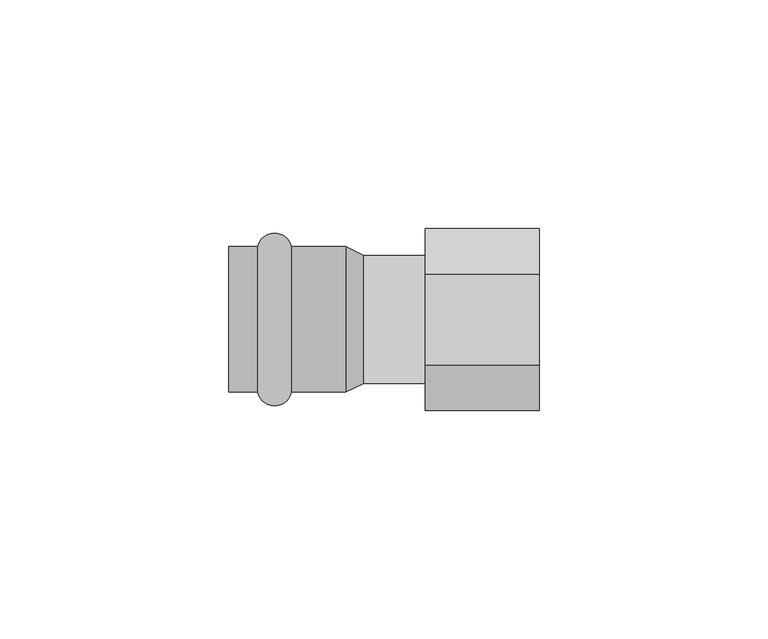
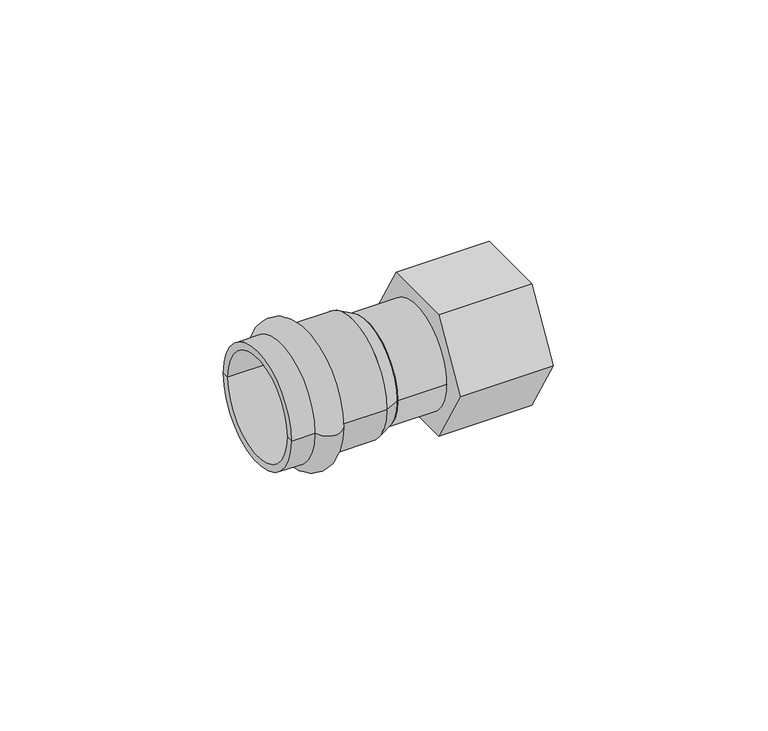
"""IFC4 building model written with IfcOpenShell, lengths in millimetres: pipe fitting geometry, VALTEC_VTi.902.I_Соединитель прямой с переходом на внутреннюю резьбу_Нержавеющая сталь : VTi.902.I."""

from ifc_helpers import new_model, si_unit, point, frame, origin, origin_2d, place, context, project, spatial, polyline, circle_curve, ellipse_curve, trimmed, segment, composite_curve, outline, extrude, source, transform, mapped, element, save
from ifc_brep_helpers import plane_surface, cylinder_surface, revolved_surface, advanced_brep


def pipe_fitting_9f528291(model_context):
    return source(origin(), model_context, "Body", "SolidModel", [
        advanced_brep(
        [(-49.1242346, -15.9, 0.0), (-49.1242346, 15.9, 0.0), (-41.7757654, 15.9, 0.0), (-41.7757654, -15.9, 0.0), (-55.5, -15.9, 0.0), (-55.5, 15.9, 0.0), (-55.5, -14.0, 0.0), (-55.5, 14.0, 0.0), (-29.9, -14.0, 0.0), (-29.9, 14.0, 0.0), (-29.9, -15.9, 0.0), (-29.9, 15.9, 0.0)],
        [
            (0, 1, circle_curve(frame((-49.1242346, 0.0, 0.0), z_axis=(1.0, 0.0, 0.0), x_axis=(0.0, 1.0, 0.0)), 15.9)),
            (1, 2, circle_curve(frame((-45.45, 15.15, 0.0), z_axis=(0.0, 0.0, -1.0), x_axis=(1.0, 0.0, 0.0)), 3.75)),
            (2, 3, circle_curve(frame((-41.7757654, 0.0, 0.0), z_axis=(-1.0, 0.0, 0.0), x_axis=(0.0, 1.0, 0.0)), 15.9)),
            (3, 0, circle_curve(frame((-45.45, -15.15, 0.0), z_axis=(0.0, 0.0, -1.0), x_axis=(1.0, 0.0, 0.0)), 3.75)),
            (1, 0, circle_curve(frame((-49.1242346, 0.0, 0.0), z_axis=(1.0, 0.0, 0.0), x_axis=(0.0, 1.0, 0.0)), 15.9)),
            (3, 2, circle_curve(frame((-41.7757654, 0.0, 0.0), z_axis=(-1.0, 0.0, 0.0), x_axis=(0.0, 1.0, 0.0)), 15.9)),
            (4, 5, circle_curve(frame((-55.5, 0.0, 0.0), z_axis=(1.0, 0.0, 0.0), x_axis=(0.0, 1.0, 0.0)), 15.9)),
            (5, 1),
            (0, 4),
            (5, 4, circle_curve(frame((-55.5, 0.0, 0.0), z_axis=(1.0, 0.0, 0.0), x_axis=(0.0, 1.0, 0.0)), 15.9)),
            (6, 7, circle_curve(frame((-55.5, 0.0, 0.0), z_axis=(1.0, 0.0, 0.0), x_axis=(0.0, 1.0, 0.0)), 14.0)),
            (7, 5),
            (4, 6),
            (7, 6, circle_curve(frame((-55.5, 0.0, 0.0), z_axis=(1.0, 0.0, 0.0), x_axis=(0.0, 1.0, 0.0)), 14.0)),
            (8, 9, circle_curve(frame((-29.9, 0.0, 0.0), z_axis=(1.0, 0.0, 0.0), x_axis=(0.0, 1.0, 0.0)), 14.0)),
            (9, 7),
            (6, 8),
            (9, 8, circle_curve(frame((-29.9, 0.0, 0.0), z_axis=(1.0, 0.0, 0.0), x_axis=(0.0, 1.0, 0.0)), 14.0)),
            (10, 11, circle_curve(frame((-29.9, 0.0, 0.0), z_axis=(1.0, 0.0, 0.0), x_axis=(0.0, 1.0, 0.0)), 15.9)),
            (11, 9),
            (8, 10),
            (11, 10, circle_curve(frame((-29.9, 0.0, 0.0), z_axis=(1.0, 0.0, 0.0), x_axis=(0.0, 1.0, 0.0)), 15.9)),
            (2, 11),
            (10, 3),
        ],
        [
            revolved_surface(trimmed(ellipse_curve(frame((-45.45, 15.15, 0.0), z_axis=(0.0, 0.0, 1.0), x_axis=(1.0, 0.0, 0.0)), 3.75, 3.75), [point((-41.7757654, 15.9, 0.0))], [point((-49.1242346, 15.9, 0.0))], True, "CARTESIAN"), (-59.0364426, 0.0, 0.0), (-1.0, 0.0, 0.0)),
            cylinder_surface(frame((-59.0364426, 0.0, 0.0), z_axis=(-1.0, 0.0, 0.0), x_axis=(0.0, 1.0, 0.0)), 15.9),
            plane_surface(frame((-55.5, 0.0, 0.0), z_axis=(-1.0, 0.0, 0.0), x_axis=(0.0, 1.0, 0.0))),
            revolved_surface(polyline([(-55.5, 14.0, 0.0), (-29.9, 14.0, 0.0)]), (-59.0364426, 0.0, 0.0), (-1.0, 0.0, 0.0)),
            plane_surface(frame((-29.9, 0.0, 0.0), z_axis=(1.0, 0.0, 0.0), x_axis=(0.0, 1.0, 0.0))),
        ],
        [
            (0, [[1, 2, 3, 4]]),
            (0, [[5, -4, 6, -2]]),
            (1, [[7, 8, -1, 9]]),
            (1, [[10, -9, -5, -8]]),
            (2, [[11, 12, -7, 13]]),
            (2, [[14, -13, -10, -12]]),
            (3, [[15, 16, -11, 17]]),
            (3, [[18, -17, -14, -16]]),
            (4, [[19, 20, -15, 21]]),
            (4, [[22, -21, -18, -20]]),
            (1, [[-3, 23, -19, 24]]),
            (1, [[-6, -24, -22, -23]]),
        ],
    ),
        extrude(outline(polyline([(-19.9185843, 0.0), (-9.9592921, 17.25), (9.9592921, 17.25), (19.9185843, 0.0), (9.9592921, -17.25), (-9.9592921, -17.25), (-19.9185843, 0.0)])), frame((-12.5, 0.0, 0.0), z_axis=(1.0, 0.0, 0.0), x_axis=(0.0, 1.0, 0.0)), (0.0, 0.0, 1.0), 25.0),
        extrude(outline(composite_curve([segment(trimmed(circle_curve(origin_2d(), 14.0), [point((-14.0, 0.0))], [point((14.0, 0.0))], False, "CARTESIAN"), True, "CONTINUOUS"), segment(trimmed(circle_curve(origin_2d(), 14.0), [point((14.0, 0.0))], [point((-14.0, 0.0))], False, "CARTESIAN"), True, "CONTINUOUS")], self_intersect=False)), frame((-25.9, 0.0, 0.0), z_axis=(1.0, 0.0, 0.0), x_axis=(0.0, 1.0, 0.0)), (0.0, 0.0, 1.0), 17.4),
        advanced_brep(
        [(-25.9, -14.0, 0.0), (-25.9, 14.0, 0.0), (-29.9, -15.9, 0.0), (-29.9, 15.9, 0.0)],
        [
            (0, 1, circle_curve(frame((-25.9, 0.0, 0.0), z_axis=(1.0, 0.0, 0.0), x_axis=(0.0, -1.0, 0.0)), 14.0)),
            (1, 0, circle_curve(frame((-25.9, 0.0, 0.0), z_axis=(1.0, 0.0, 0.0), x_axis=(0.0, 1.0, 0.0)), 14.0)),
            (2, 3, circle_curve(frame((-29.9, 0.0, 0.0), z_axis=(-1.0, 0.0, 0.0), x_axis=(0.0, 1.0, 0.0)), 15.9)),
            (3, 2, circle_curve(frame((-29.9, 0.0, 0.0), z_axis=(-1.0, 0.0, 0.0), x_axis=(0.0, -1.0, 0.0)), 15.9)),
            (3, 1),
            (0, 2),
        ],
        [
            plane_surface(frame((-25.9, 0.0, 0.0), z_axis=(1.0, 0.0, 0.0), x_axis=(0.0, 0.0, -1.0))),
            plane_surface(frame((-29.9, 0.0, 0.0), z_axis=(-1.0, 0.0, 0.0), x_axis=(0.0, 0.0, -1.0))),
            revolved_surface(polyline([(-25.9, -13.999999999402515, 0.0), (-29.900000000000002, -15.9, 0.0)]), (3.5736842, 0.0, 0.0), (-1.0, 0.0, 0.0)),
            revolved_surface(polyline([(-25.9, 13.999999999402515, 0.0), (-29.900000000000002, 15.9, 0.0)]), (3.5736842, 0.0, 0.0), (-1.0, 0.0, 0.0)),
        ],
        [
            (0, [[1, 2]]),
            (1, [[3, 4]]),
            (2, [[-4, 5, -1, 6]]),
            (3, [[-3, -6, -2, -5]]),
        ],
    ),
    ])


if __name__ == "__main__":
    model = new_model("IFC4")
    model_context = context("Model", 3, world=origin())
    ifc_project = project(units=[si_unit("LENGTHUNIT", "METRE", prefix="MILLI")], contexts=[model_context])
    site = spatial("IfcSite", under=ifc_project)
    building = spatial("IfcBuilding", under=site)
    placement = place(None, origin())
    pipe_fitting_shape = pipe_fitting_9f528291(model_context)
    element("IfcPipeFitting", 1, ObjectType="VALTEC_VTi.902.I_Соединитель прямой с переходом на внутреннюю резьбу_Нержавеющая сталь : VTi.902.I", at=placement, inside=building, context=model_context, shape_type="MappedRepresentation", body=[
        mapped(pipe_fitting_shape, transform((0.0, 0.0, 0.0), x_axis=(1.0, 0.0, 0.0), y_axis=(0.0, 1.0, 0.0), z_axis=(0.0, 0.0, 1.0))),
    ])
    save(model, "model.ifc")
